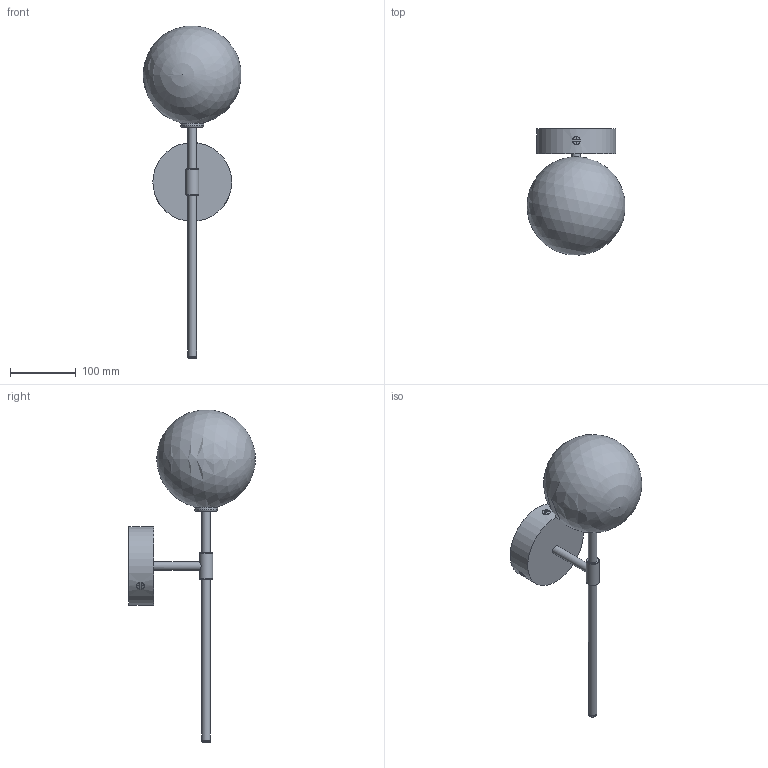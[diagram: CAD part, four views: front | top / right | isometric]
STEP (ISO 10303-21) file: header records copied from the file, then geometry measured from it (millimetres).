
FILE_DESCRIPTION(/* description */ (''),/* implementation_level */ '2;1');
FILE_NAME(/* name */ 'T:\B110 Kinkiet Dawn\Pliki bryłowe handlowe\B110 Dawn Single 3D files\B110 Dawn Single.stp',/* time_stamp */ '2022-01-20T14:43:29+01:00',/* author */ ('Mariusz Awariusz'),/* organization */ (''),/* preprocessor_version */ 'ST-DEVELOPER v18.1',/* originating_system */ 'Autodesk Inventor 2022',/* authorisation */ '');
FILE_SCHEMA (('AUTOMOTIVE_DESIGN { 1 0 10303 214 3 1 1 }'));
Length unit declared in the file: millimetre
Products named in the file (1): Dawn One Sconce CE V9.1_na potrzeby plików 3D_jako część
Bounding box: 149.18 x 192.92 x 505.54 mm (x, y, z)
Volume: 635618.9 mm3; surface area: 195621.8 mm2
Topology: 1 solids, 3 shells, 99 faces, 219 edges, 143 vertices
Faces by surface type: plane 41, cone 27, cylinder 26, sphere 3, torus 2
Full cylindrical faces by diameter (mm): 2.693 x3, 3 x6, 4 x3, 5.5 x3, 11.6 x1, 11.917 x1, 13 x5, 20 x1, 33 x1, 35 x1, 120 x1
Entity records: 2993 total; most frequent: CARTESIAN_POINT 727, DIRECTION 490, ORIENTED_EDGE 430, EDGE_CURVE 215, AXIS2_PLACEMENT_3D 208, VERTEX_POINT 143, EDGE_LOOP 128, CIRCLE 108
